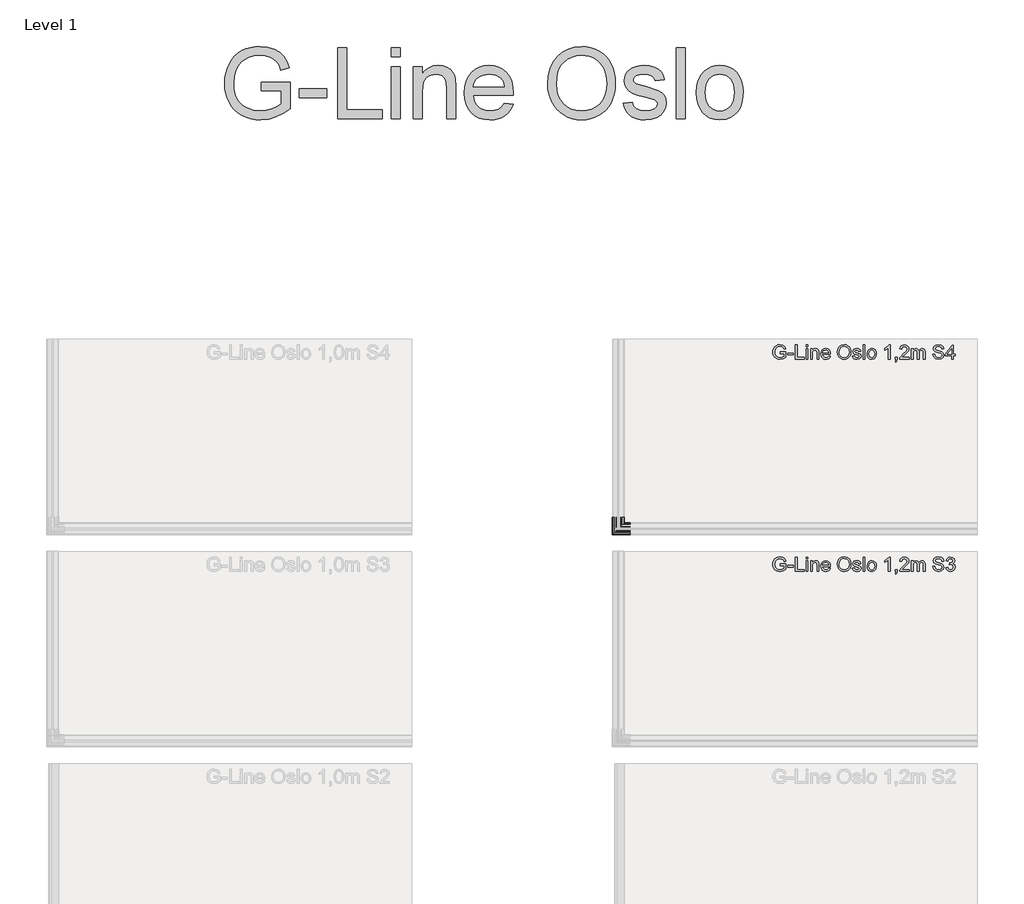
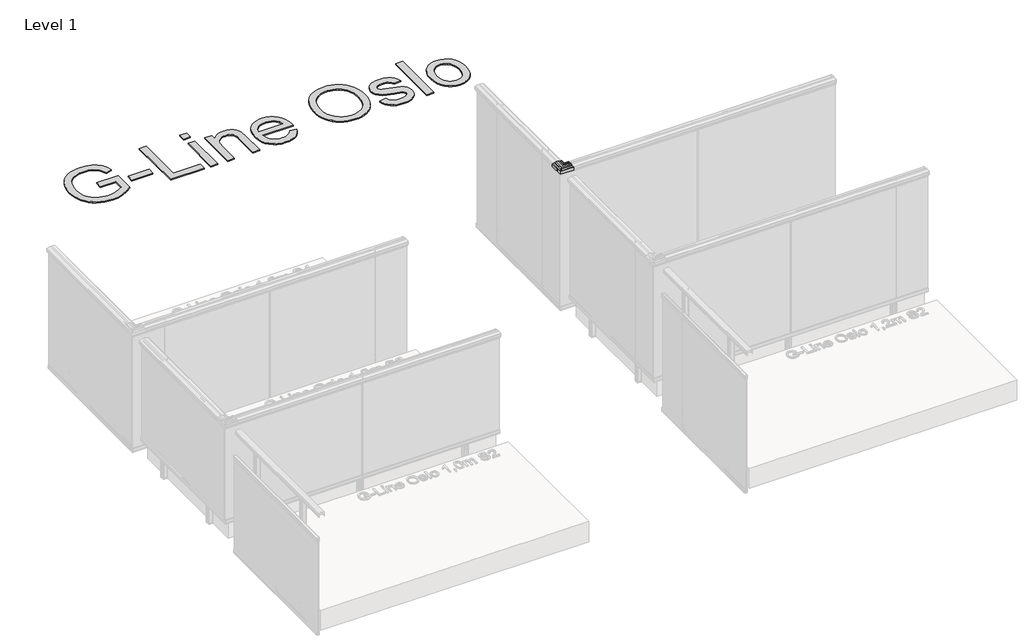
# One storey, part 66 of 66: 4 proxies.
"""IFC4 building model written with IfcOpenShell, lengths in millimetres."""

from ifc_helpers import new_model, si_unit, origin, origin_with_axes, place, context, project, spatial, polyline, outline, extrude, transform, mapped, element, save
from components import generic_models_224f447f

model = new_model("IFC4")

# Units and contexts
model_context = context("Model", 3, world=origin())
ifc_project = project(units=[si_unit("LENGTHUNIT", "METRE", prefix="MILLI")], contexts=[model_context])

# Site, building, storey
site = spatial("IfcSite", under=ifc_project)
building = spatial("IfcBuilding", under=site)
storey = spatial("IfcBuildingStorey", under=building, Name="Level 1", Elevation=0.0)

# Proxies
placement = place(None, origin())
generic_models_shape = generic_models_224f447f(model_context)
element("IfcBuildingElementProxy", 1, Name="Innore top rail 81x35 corner element : Innore top rail 81x35 element", ObjectType="Innore top rail 81x35 corner element : Innore top rail 81x35 element", at=placement, inside=storey, context=model_context, shape_type="MappedRepresentation", body=[
    mapped(generic_models_shape, transform((8465.4055183, 17090.2194821, 1200.0), x_axis=(0.0, -1.0, 0.0), y_axis=(1.0, 0.0, 0.0), z_axis=(0.0, 0.0, 1.0))),
])
element("IfcBuildingElementProxy", 2, Name="100mm Arial", ObjectType="100mm Arial", at=placement, inside=storey, context=model_context, shape_type="SweptSolid", body=[
    extrude(outline(polyline([(9608.6537991, 16829.5293902), (9608.6537991, 16842.086429), (9649.4641751, 16842.086429), (9649.4641751, 16804.53794), (9629.3165045, 16792.6921398), (9608.0161369, 16788.7190142), (9593.9293222, 16790.2978411), (9581.1975395, 16795.0343218), (9570.6209321, 16802.7629094), (9562.9996435, 16813.318057), (9558.3919215, 16825.979329), (9556.8560141, 16840.0262898), (9558.3857901, 16854.1744182), (9562.975118, 16867.3353966), (9570.4339255, 16878.3749221), (9580.5721401, 16886.158692), (9592.9207124, 16890.7756111), (9607.0105928, 16892.3145841), (9626.6554914, 16888.7461287), (9640.4265407, 16878.8133149), (9648.0171726, 16862.1973114), (9636.4411524, 16858.9354244), (9630.714456, 16870.5482327), (9620.928795, 16877.243685), (9606.8143891, 16879.7575453), (9590.7379459, 16877.0474813), (9579.7995879, 16869.935096), (9573.3371275, 16860.2597996), (9569.4130529, 16840.5413246), (9574.1342052, 16818.6523459), (9587.8684663, 16805.5557469), (9607.0105928, 16801.276053), (9624.190682, 16804.5011518), (9636.9071363, 16811.3805451), (9636.9071363, 16829.5293902), (9608.6537991, 16829.5293902)])), origin_with_axes(), (0.0, 0.0, 1.0), 10.0),
    extrude(outline(polyline([(9662.0212138, 16820.1116112), (9662.0212138, 16832.6686499), (9701.26196, 16832.6686499), (9701.26196, 16820.1116112), (9662.0212138, 16820.1116112)])), origin_with_axes(), (0.0, 0.0, 1.0), 10.0),
    extrude(outline(polyline([(9716.9582584, 16790.2886441), (9716.9582584, 16890.7449542), (9729.5152972, 16890.7449542), (9729.5152972, 16802.8456829), (9779.7434523, 16802.8456829), (9779.7434523, 16790.2886441), (9716.9582584, 16790.2886441)])), origin_with_axes(), (0.0, 0.0, 1.0), 10.0),
    extrude(outline(polyline([(9792.3004911, 16878.1879155), (9792.3004911, 16890.7449542), (9804.8575298, 16890.7449542), (9804.8575298, 16878.1879155), (9792.3004911, 16878.1879155)])), origin_with_axes(), (0.0, 0.0, 1.0), 10.0),
    extrude(outline(polyline([(9792.3004911, 16790.2886441), (9792.3004911, 16864.0612468), (9804.8575298, 16864.0612468), (9804.8575298, 16790.2886441), (9792.3004911, 16790.2886441)])), origin_with_axes(), (0.0, 0.0, 1.0), 10.0),
    extrude(outline(polyline([(9823.693088, 16790.2886441), (9823.693088, 16864.0612468), (9836.2501268, 16864.0612468), (9836.2501268, 16853.760551), (9845.8518468, 16862.6632953), (9858.9607086, 16865.6308767), (9870.8187716, 16863.2396437), (9878.9121755, 16856.9611243), (9882.6768345, 16847.7272863), (9883.3390221, 16835.5871804), (9883.3390221, 16790.2886441), (9870.7819834, 16790.2886441), (9870.7819834, 16833.8949232), (9869.3349809, 16845.0049595), (9864.2214211, 16850.8788087), (9855.6007197, 16853.0738379), (9841.9768231, 16848.1442192), (9837.6818009, 16841.0011771), (9836.2501268, 16829.4312884), (9836.2501268, 16790.2886441), (9823.693088, 16790.2886441)])), origin_with_axes(), (0.0, 0.0, 1.0), 10.0),
    extrude(outline(polyline([(9952.2555826, 16812.2634619), (9964.5673667, 16810.6938321), (9960.1313229, 16801.4170744), (9953.0526602, 16794.4824988), (9943.490794, 16790.1598854), (9931.6051399, 16788.7190142), (9916.871466, 16791.2052834), (9905.5345692, 16798.6640908), (9898.305688, 16810.6110586), (9895.8960609, 16826.5618088), (9898.3302134, 16843.0490536), (9905.632671, 16855.3792318), (9916.8162837, 16863.0679655), (9930.8939014, 16865.6308767), (9944.5331263, 16863.0740968), (9955.4316305, 16855.4037572), (9962.5777382, 16843.0981045), (9964.9597741, 16826.6353852), (9964.8861977, 16823.2508709), (9908.4530997, 16823.2508709), (9910.6266691, 16813.8514859), (9915.6758495, 16806.9414357), (9922.9629787, 16802.6923987), (9931.8503946, 16801.276053), (9944.1621787, 16803.9002779), (9952.2555826, 16812.2634619)]), holes=[polyline([(9908.4530997, 16835.8079096), (9952.4027354, 16835.8079096), (9947.3750148, 16847.187726), (9940.0541631, 16851.6023099), (9930.8448504, 16853.0738379), (9915.3815439, 16848.3772111), (9910.5163045, 16842.8865723), (9908.4530997, 16835.8079096)])]), origin_with_axes(), (0.0, 0.0, 1.0), 10.0),
    extrude(outline(polyline([(10013.6182994, 16839.192424), (10016.9660255, 16861.4063651), (10027.009204, 16878.2124409), (10042.3437518, 16888.7890483), (10061.5655861, 16892.3145841), (10074.7418929, 16890.6591151), (10086.5570363, 16885.6927082), (10096.3672228, 16877.7648512), (10103.528659, 16867.225032), (10107.9064547, 16854.5821541), (10109.36572, 16840.3451209), (10107.8298126, 16825.9180153), (10103.2220907, 16813.0973278), (10095.7970057, 16802.5391145), (10085.8090095, 16794.8994318), (10074.0950337, 16790.2641186), (10061.4920097, 16788.7190142), (10048.1133678, 16790.4265998), (10036.2307793, 16795.5493566), (10026.4451183, 16803.6243664), (10019.3572585, 16814.188711), (10013.6182994, 16839.192424)]), holes=[polyline([(10026.1753381, 16839.0697966), (10028.6861327, 16823.3551041), (10036.2185166, 16811.3805451), (10047.540085, 16803.802176), (10061.4184333, 16801.276053), (10075.4991166, 16803.8267015), (10086.8390791, 16811.478647), (10094.3162807, 16823.8210879), (10096.8086812, 16840.4432228), (10092.5412501, 16861.1672418), (10080.0700504, 16874.8892402), (10061.6391625, 16879.7575453), (10048.1317619, 16877.4122976), (10036.6477123, 16870.3765544), (10028.7934317, 16857.8593695), (10026.1753381, 16839.0697966)])]), origin_with_axes(), (0.0, 0.0, 1.0), 10.0),
    extrude(outline(polyline([(10120.3531289, 16812.2634619), (10132.9101677, 16813.8330918), (10138.7227032, 16804.5134146), (10152.0400314, 16801.276053), (10164.8423248, 16804.2436344), (10169.0116541, 16811.2088669), (10164.8177994, 16816.8497241), (10151.8928786, 16820.4304422), (10132.9837441, 16826.5740715), (10124.7309246, 16833.7477704), (10121.9227587, 16843.876788), (10124.1791016, 16853.2332535), (10130.3349937, 16860.3824269), (10138.318033, 16864.098035), (10149.1215009, 16865.6308767), (10164.4008665, 16863.1660673), (10174.1129511, 16856.4951405), (10178.4294332, 16845.2256887), (10165.8723944, 16843.6560589), (10161.1512422, 16850.5845031), (10150.1025196, 16853.0738379), (10138.0850411, 16850.6948677), (10134.4797975, 16845.1521123), (10135.975851, 16841.4978178), (10140.660215, 16838.7264401), (10151.4759457, 16836.0531643), (10169.9068336, 16830.1425269), (10178.4662214, 16823.4470746), (10181.5686929, 16812.5332421), (10177.9266611, 16800.5157635), (10167.4174988, 16791.7969603), (10151.8683531, 16788.7190142), (10139.2070811, 16790.202805), (10129.9671117, 16794.6541771), (10123.7989569, 16802.0240797), (10120.3531289, 16812.2634619)])), origin_with_axes(), (0.0, 0.0, 1.0), 10.0),
    extrude(outline(polyline([(10195.6953615, 16790.2886441), (10195.6953615, 16890.7449542), (10208.2524003, 16890.7449542), (10208.2524003, 16790.2886441), (10195.6953615, 16790.2886441)])), origin_with_axes(), (0.0, 0.0, 1.0), 10.0),
    extrude(outline(polyline([(10223.9486987, 16827.1749455), (10226.6648941, 16844.9620399), (10234.8134803, 16857.4638964), (10244.8811843, 16863.5891316), (10256.935451, 16865.6308767), (10270.1270862, 16863.1446075), (10280.6638397, 16855.6858001), (10287.5708241, 16843.8430655), (10289.8731523, 16828.2050151), (10285.8019249, 16805.8623152), (10273.9438619, 16793.2194373), (10256.935451, 16788.7190142), (10243.5844002, 16791.1960863), (10233.0599095, 16798.6273026), (10226.2265014, 16810.7183575), (10223.9486987, 16827.1749455)]), holes=[polyline([(10236.5057375, 16827.1994709), (10237.9588714, 16815.834983), (10242.318273, 16807.7385134), (10248.8788353, 16802.8916681), (10256.935451, 16801.276053), (10264.9552785, 16802.9008652), (10271.503578, 16807.7753016), (10275.8629796, 16815.9790701), (10277.3161135, 16827.5918784), (10275.8537826, 16838.6252726), (10271.4667898, 16846.6113775), (10264.9092932, 16851.4582228), (10256.935451, 16853.0738379), (10248.8788353, 16851.4643542), (10242.318273, 16846.635903), (10237.9588714, 16838.5578275), (10236.5057375, 16827.1994709)])]), origin_with_axes(), (0.0, 0.0, 1.0), 10.0),
    extrude(outline(polyline([(10387.1902027, 16790.2886441), (10374.633164, 16790.2886441), (10374.633164, 16868.5739327), (10362.7383128, 16860.100384), (10349.5190864, 16853.760551), (10349.5190864, 16865.6308767), (10367.9254489, 16877.3785751), (10379.0967988, 16890.7449542), (10387.1902027, 16890.7449542), (10387.1902027, 16790.2886441)])), origin_with_axes(), (0.0, 0.0, 1.0), 10.0),
    extrude(outline(polyline([(10423.2916892, 16790.2886441), (10423.2916892, 16802.8456829), (10435.848728, 16802.8456829), (10435.848728, 16790.2886441), (10433.5923851, 16777.4495625), (10426.4309489, 16769.8834561), (10423.2916892, 16774.5923456), (10427.9024769, 16780.0124737), (10429.5456831, 16790.2886441), (10423.2916892, 16790.2886441)])), origin_with_axes(), (0.0, 0.0, 1.0), 10.0),
    extrude(outline(polyline([(10520.6087396, 16802.8456829), (10520.6087396, 16790.2886441), (10454.6842861, 16790.2886441), (10456.0331868, 16798.9461337), (10463.6606068, 16812.2757247), (10479.3814307, 16826.8315889), (10501.061943, 16847.7518117), (10506.482071, 16861.9765822), (10501.3685113, 16873.4912887), (10488.0143949, 16878.1879155), (10474.0961927, 16873.6016533), (10468.8109547, 16860.9219872), (10456.253916, 16862.491617), (10459.2981395, 16874.6378542), (10465.8801615, 16883.5099417), (10475.6566255, 16888.9362011), (10488.284175, 16890.7449542), (10501.003695, 16888.733866), (10510.7617649, 16882.7006013), (10516.9697736, 16873.6874924), (10519.0391098, 16862.7368717), (10516.8072924, 16850.8297578), (10509.3883388, 16838.5179737), (10491.3989092, 16821.313359), (10476.9534096, 16809.2345668), (10471.2880268, 16802.8456829), (10520.6087396, 16802.8456829)])), origin_with_axes(), (0.0, 0.0, 1.0), 10.0),
    extrude(outline(polyline([(10536.3050381, 16790.2886441), (10536.3050381, 16864.0612468), (10548.8620769, 16864.0612468), (10548.8620769, 16851.921141), (10557.495041, 16861.8662176), (10569.7822997, 16865.6308767), (10582.3638639, 16861.7926412), (10589.2800454, 16851.0382242), (10599.0779692, 16861.9827136), (10611.451067, 16865.6308767), (10620.8903058, 16864.1133635), (10627.8708667, 16859.5608238), (10632.1842831, 16851.8506303), (10633.6220886, 16840.8601557), (10633.6220886, 16790.2886441), (10621.0650498, 16790.2886441), (10621.0650498, 16835.4645531), (10619.9000901, 16845.94919), (10615.6817099, 16851.1118006), (10608.508011, 16853.0738379), (10596.1594387, 16848.0461173), (10592.4714217, 16841.5039492), (10591.2420827, 16831.9328859), (10591.2420827, 16790.2886441), (10578.685044, 16790.2886441), (10578.685044, 16836.8625047), (10575.7787762, 16849.027136), (10566.2506325, 16853.0738379), (10556.9554808, 16850.3760366), (10550.7750633, 16842.4788365), (10548.8620769, 16827.4937765), (10548.8620769, 16790.2886441), (10536.3050381, 16790.2886441)])), origin_with_axes(), (0.0, 0.0, 1.0), 10.0),
    extrude(outline(polyline([(10688.5591332, 16824.8205007), (10701.1161719, 16824.8205007), (10705.1628739, 16812.2511992), (10715.0466368, 16804.3049481), (10730.1052732, 16801.276053), (10743.2263977, 16803.5691841), (10751.6999463, 16809.872229), (10754.4835867, 16818.2967266), (10752.3989221, 16826.1326131), (10743.8640598, 16831.8347841), (10725.5803246, 16836.6295127), (10705.8986379, 16842.822193), (10695.2177973, 16852.1663957), (10691.6983929, 16864.649858), (10696.0516631, 16878.8623658), (10708.7681174, 16888.8932815), (10727.3829464, 16892.3145841), (10747.2485741, 16888.733866), (10760.492326, 16878.2124409), (10765.4709956, 16862.491617), (10752.9139569, 16862.491617), (10750.608563, 16869.984147), (10745.8015716, 16875.3920123), (10727.8734557, 16879.7575453), (10709.8962889, 16875.4410632), (10704.2554316, 16865.01774), (10708.2530827, 16856.3111995), (10728.7563725, 16849.2969161), (10750.976445, 16842.9938713), (10763.1288136, 16832.8158027), (10767.0406255, 16818.6155577), (10762.5402024, 16803.5937096), (10749.5907562, 16792.6308261), (10730.5957825, 16788.7190142), (10708.1672435, 16792.9373944), (10693.9792612, 16805.641586), (10688.5591332, 16824.8205007)])), origin_with_axes(), (0.0, 0.0, 1.0), 10.0),
    extrude(outline(polyline([(10781.1672941, 16816.9723515), (10793.7243329, 16818.5419813), (10800.6527771, 16805.322755), (10813.6144861, 16801.276053), (10822.2229248, 16802.6678732), (10828.8693261, 16806.8433339), (10834.5347089, 16820.626646), (10828.9183771, 16833.6128804), (10814.6445557, 16838.7509656), (10805.8399132, 16837.3775395), (10807.2378648, 16849.9345782), (10809.2489531, 16849.7874254), (10823.498249, 16853.392669), (10828.2439267, 16857.9666685), (10829.8258193, 16864.4781798), (10825.2395571, 16874.300629), (10813.4182823, 16878.1879155), (10801.4498548, 16874.2638408), (10795.2939627, 16862.491617), (10782.7369239, 16864.0612468), (10786.434138, 16875.33683), (10793.0130943, 16883.7551963), (10802.0139405, 16888.9975148), (10812.9768239, 16890.7449542), (10828.1212994, 16887.2991262), (10838.7163009, 16877.8813471), (10842.3828581, 16865.2139438), (10838.9002419, 16853.6379237), (10828.599546, 16845.3237906), (10842.2847562, 16836.7398773), (10847.0917476, 16820.4059168), (10844.6882519, 16808.167709), (10837.4777648, 16797.9405896), (10826.5945891, 16791.0244081), (10813.1730277, 16788.7190142), (10801.0329218, 16790.6871829), (10791.1491589, 16796.5916889), (10784.275897, 16805.6231919), (10781.1672941, 16816.9723515)])), origin_with_axes(), (0.0, 0.0, 1.0), 10.0),
])
element("IfcBuildingElementProxy", 3, Name="100mm Arial", ObjectType="100mm Arial", at=placement, inside=storey, context=model_context, shape_type="SweptSolid", body=[
    extrude(outline(polyline([(9608.6537991, 18329.5293902), (9608.6537991, 18342.086429), (9649.4641751, 18342.086429), (9649.4641751, 18304.53794), (9629.3165045, 18292.6921398), (9608.0161369, 18288.7190142), (9593.9293222, 18290.2978411), (9581.1975395, 18295.0343218), (9570.6209321, 18302.7629094), (9562.9996435, 18313.318057), (9558.3919215, 18325.979329), (9556.8560141, 18340.0262898), (9558.3857901, 18354.1744182), (9562.975118, 18367.3353966), (9570.4339255, 18378.3749221), (9580.5721401, 18386.158692), (9592.9207124, 18390.7756111), (9607.0105928, 18392.3145841), (9626.6554914, 18388.7461287), (9640.4265407, 18378.8133149), (9648.0171726, 18362.1973114), (9636.4411524, 18358.9354244), (9630.714456, 18370.5482327), (9620.928795, 18377.243685), (9606.8143891, 18379.7575453), (9590.7379459, 18377.0474813), (9579.7995879, 18369.935096), (9573.3371275, 18360.2597996), (9569.4130529, 18340.5413246), (9574.1342052, 18318.6523459), (9587.8684663, 18305.5557469), (9607.0105928, 18301.276053), (9624.190682, 18304.5011518), (9636.9071363, 18311.3805451), (9636.9071363, 18329.5293902), (9608.6537991, 18329.5293902)])), origin_with_axes(), (0.0, 0.0, 1.0), 10.0),
    extrude(outline(polyline([(9662.0212138, 18320.1116112), (9662.0212138, 18332.6686499), (9701.26196, 18332.6686499), (9701.26196, 18320.1116112), (9662.0212138, 18320.1116112)])), origin_with_axes(), (0.0, 0.0, 1.0), 10.0),
    extrude(outline(polyline([(9716.9582584, 18290.2886441), (9716.9582584, 18390.7449542), (9729.5152972, 18390.7449542), (9729.5152972, 18302.8456829), (9779.7434523, 18302.8456829), (9779.7434523, 18290.2886441), (9716.9582584, 18290.2886441)])), origin_with_axes(), (0.0, 0.0, 1.0), 10.0),
    extrude(outline(polyline([(9792.3004911, 18378.1879155), (9792.3004911, 18390.7449542), (9804.8575298, 18390.7449542), (9804.8575298, 18378.1879155), (9792.3004911, 18378.1879155)])), origin_with_axes(), (0.0, 0.0, 1.0), 10.0),
    extrude(outline(polyline([(9792.3004911, 18290.2886441), (9792.3004911, 18364.0612468), (9804.8575298, 18364.0612468), (9804.8575298, 18290.2886441), (9792.3004911, 18290.2886441)])), origin_with_axes(), (0.0, 0.0, 1.0), 10.0),
    extrude(outline(polyline([(9823.693088, 18290.2886441), (9823.693088, 18364.0612468), (9836.2501268, 18364.0612468), (9836.2501268, 18353.760551), (9845.8518468, 18362.6632953), (9858.9607086, 18365.6308767), (9870.8187716, 18363.2396437), (9878.9121755, 18356.9611243), (9882.6768345, 18347.7272863), (9883.3390221, 18335.5871804), (9883.3390221, 18290.2886441), (9870.7819834, 18290.2886441), (9870.7819834, 18333.8949232), (9869.3349809, 18345.0049595), (9864.2214211, 18350.8788087), (9855.6007197, 18353.0738379), (9841.9768231, 18348.1442192), (9837.6818009, 18341.0011771), (9836.2501268, 18329.4312884), (9836.2501268, 18290.2886441), (9823.693088, 18290.2886441)])), origin_with_axes(), (0.0, 0.0, 1.0), 10.0),
    extrude(outline(polyline([(9952.2555826, 18312.2634619), (9964.5673667, 18310.6938321), (9960.1313229, 18301.4170744), (9953.0526602, 18294.4824988), (9943.490794, 18290.1598854), (9931.6051399, 18288.7190142), (9916.871466, 18291.2052834), (9905.5345692, 18298.6640908), (9898.305688, 18310.6110586), (9895.8960609, 18326.5618088), (9898.3302134, 18343.0490536), (9905.632671, 18355.3792318), (9916.8162837, 18363.0679655), (9930.8939014, 18365.6308767), (9944.5331263, 18363.0740968), (9955.4316305, 18355.4037572), (9962.5777382, 18343.0981045), (9964.9597741, 18326.6353852), (9964.8861977, 18323.2508709), (9908.4530997, 18323.2508709), (9910.6266691, 18313.8514859), (9915.6758495, 18306.9414357), (9922.9629787, 18302.6923987), (9931.8503946, 18301.276053), (9944.1621787, 18303.9002779), (9952.2555826, 18312.2634619)]), holes=[polyline([(9908.4530997, 18335.8079096), (9952.4027354, 18335.8079096), (9947.3750148, 18347.187726), (9940.0541631, 18351.6023099), (9930.8448504, 18353.0738379), (9915.3815439, 18348.3772111), (9910.5163045, 18342.8865723), (9908.4530997, 18335.8079096)])]), origin_with_axes(), (0.0, 0.0, 1.0), 10.0),
    extrude(outline(polyline([(10013.6182994, 18339.192424), (10016.9660255, 18361.4063651), (10027.009204, 18378.2124409), (10042.3437518, 18388.7890483), (10061.5655861, 18392.3145841), (10074.7418929, 18390.6591151), (10086.5570363, 18385.6927082), (10096.3672228, 18377.7648512), (10103.528659, 18367.225032), (10107.9064547, 18354.5821541), (10109.36572, 18340.3451209), (10107.8298126, 18325.9180153), (10103.2220907, 18313.0973278), (10095.7970057, 18302.5391145), (10085.8090095, 18294.8994318), (10074.0950337, 18290.2641186), (10061.4920097, 18288.7190142), (10048.1133678, 18290.4265998), (10036.2307793, 18295.5493566), (10026.4451183, 18303.6243664), (10019.3572585, 18314.188711), (10013.6182994, 18339.192424)]), holes=[polyline([(10026.1753381, 18339.0697966), (10028.6861327, 18323.3551041), (10036.2185166, 18311.3805451), (10047.540085, 18303.802176), (10061.4184333, 18301.276053), (10075.4991166, 18303.8267015), (10086.8390791, 18311.478647), (10094.3162807, 18323.8210879), (10096.8086812, 18340.4432228), (10092.5412501, 18361.1672418), (10080.0700504, 18374.8892402), (10061.6391625, 18379.7575453), (10048.1317619, 18377.4122976), (10036.6477123, 18370.3765544), (10028.7934317, 18357.8593695), (10026.1753381, 18339.0697966)])]), origin_with_axes(), (0.0, 0.0, 1.0), 10.0),
    extrude(outline(polyline([(10120.3531289, 18312.2634619), (10132.9101677, 18313.8330918), (10138.7227032, 18304.5134146), (10152.0400314, 18301.276053), (10164.8423248, 18304.2436344), (10169.0116541, 18311.2088669), (10164.8177994, 18316.8497241), (10151.8928786, 18320.4304422), (10132.9837441, 18326.5740715), (10124.7309246, 18333.7477704), (10121.9227587, 18343.876788), (10124.1791016, 18353.2332535), (10130.3349937, 18360.3824269), (10138.318033, 18364.098035), (10149.1215009, 18365.6308767), (10164.4008665, 18363.1660673), (10174.1129511, 18356.4951405), (10178.4294332, 18345.2256887), (10165.8723944, 18343.6560589), (10161.1512422, 18350.5845031), (10150.1025196, 18353.0738379), (10138.0850411, 18350.6948677), (10134.4797975, 18345.1521123), (10135.975851, 18341.4978178), (10140.660215, 18338.7264401), (10151.4759457, 18336.0531643), (10169.9068336, 18330.1425269), (10178.4662214, 18323.4470746), (10181.5686929, 18312.5332421), (10177.9266611, 18300.5157635), (10167.4174988, 18291.7969603), (10151.8683531, 18288.7190142), (10139.2070811, 18290.202805), (10129.9671117, 18294.6541771), (10123.7989569, 18302.0240797), (10120.3531289, 18312.2634619)])), origin_with_axes(), (0.0, 0.0, 1.0), 10.0),
    extrude(outline(polyline([(10195.6953615, 18290.2886441), (10195.6953615, 18390.7449542), (10208.2524003, 18390.7449542), (10208.2524003, 18290.2886441), (10195.6953615, 18290.2886441)])), origin_with_axes(), (0.0, 0.0, 1.0), 10.0),
    extrude(outline(polyline([(10223.9486987, 18327.1749455), (10226.6648941, 18344.9620399), (10234.8134803, 18357.4638964), (10244.8811843, 18363.5891316), (10256.935451, 18365.6308767), (10270.1270862, 18363.1446075), (10280.6638397, 18355.6858001), (10287.5708241, 18343.8430655), (10289.8731523, 18328.2050151), (10285.8019249, 18305.8623152), (10273.9438619, 18293.2194373), (10256.935451, 18288.7190142), (10243.5844002, 18291.1960863), (10233.0599095, 18298.6273026), (10226.2265014, 18310.7183575), (10223.9486987, 18327.1749455)]), holes=[polyline([(10236.5057375, 18327.1994709), (10237.9588714, 18315.834983), (10242.318273, 18307.7385134), (10248.8788353, 18302.8916681), (10256.935451, 18301.276053), (10264.9552785, 18302.9008652), (10271.503578, 18307.7753016), (10275.8629796, 18315.9790701), (10277.3161135, 18327.5918784), (10275.8537826, 18338.6252726), (10271.4667898, 18346.6113775), (10264.9092932, 18351.4582228), (10256.935451, 18353.0738379), (10248.8788353, 18351.4643542), (10242.318273, 18346.635903), (10237.9588714, 18338.5578275), (10236.5057375, 18327.1994709)])]), origin_with_axes(), (0.0, 0.0, 1.0), 10.0),
    extrude(outline(polyline([(10387.1902027, 18290.2886441), (10374.633164, 18290.2886441), (10374.633164, 18368.5739327), (10362.7383128, 18360.100384), (10349.5190864, 18353.760551), (10349.5190864, 18365.6308767), (10367.9254489, 18377.3785751), (10379.0967988, 18390.7449542), (10387.1902027, 18390.7449542), (10387.1902027, 18290.2886441)])), origin_with_axes(), (0.0, 0.0, 1.0), 10.0),
    extrude(outline(polyline([(10423.2916892, 18290.2886441), (10423.2916892, 18302.8456829), (10435.848728, 18302.8456829), (10435.848728, 18290.2886441), (10433.5923851, 18277.4495625), (10426.4309489, 18269.8834561), (10423.2916892, 18274.5923456), (10427.9024769, 18280.0124737), (10429.5456831, 18290.2886441), (10423.2916892, 18290.2886441)])), origin_with_axes(), (0.0, 0.0, 1.0), 10.0),
    extrude(outline(polyline([(10520.6087396, 18302.8456829), (10520.6087396, 18290.2886441), (10454.6842861, 18290.2886441), (10456.0331868, 18298.9461337), (10463.6606068, 18312.2757247), (10479.3814307, 18326.8315889), (10501.061943, 18347.7518117), (10506.482071, 18361.9765822), (10501.3685113, 18373.4912887), (10488.0143949, 18378.1879155), (10474.0961927, 18373.6016533), (10468.8109547, 18360.9219872), (10456.253916, 18362.491617), (10459.2981395, 18374.6378542), (10465.8801615, 18383.5099417), (10475.6566255, 18388.9362011), (10488.284175, 18390.7449542), (10501.003695, 18388.733866), (10510.7617649, 18382.7006013), (10516.9697736, 18373.6874924), (10519.0391098, 18362.7368717), (10516.8072924, 18350.8297578), (10509.3883388, 18338.5179737), (10491.3989092, 18321.313359), (10476.9534096, 18309.2345668), (10471.2880268, 18302.8456829), (10520.6087396, 18302.8456829)])), origin_with_axes(), (0.0, 0.0, 1.0), 10.0),
    extrude(outline(polyline([(10536.3050381, 18290.2886441), (10536.3050381, 18364.0612468), (10548.8620769, 18364.0612468), (10548.8620769, 18351.921141), (10557.495041, 18361.8662176), (10569.7822997, 18365.6308767), (10582.3638639, 18361.7926412), (10589.2800454, 18351.0382242), (10599.0779692, 18361.9827136), (10611.451067, 18365.6308767), (10620.8903058, 18364.1133635), (10627.8708667, 18359.5608238), (10632.1842831, 18351.8506303), (10633.6220886, 18340.8601557), (10633.6220886, 18290.2886441), (10621.0650498, 18290.2886441), (10621.0650498, 18335.4645531), (10619.9000901, 18345.94919), (10615.6817099, 18351.1118006), (10608.508011, 18353.0738379), (10596.1594387, 18348.0461173), (10592.4714217, 18341.5039492), (10591.2420827, 18331.9328859), (10591.2420827, 18290.2886441), (10578.685044, 18290.2886441), (10578.685044, 18336.8625047), (10575.7787762, 18349.027136), (10566.2506325, 18353.0738379), (10556.9554808, 18350.3760366), (10550.7750633, 18342.4788365), (10548.8620769, 18327.4937765), (10548.8620769, 18290.2886441), (10536.3050381, 18290.2886441)])), origin_with_axes(), (0.0, 0.0, 1.0), 10.0),
    extrude(outline(polyline([(10688.5591332, 18324.8205007), (10701.1161719, 18324.8205007), (10705.1628739, 18312.2511992), (10715.0466368, 18304.3049481), (10730.1052732, 18301.276053), (10743.2263977, 18303.5691841), (10751.6999463, 18309.872229), (10754.4835867, 18318.2967266), (10752.3989221, 18326.1326131), (10743.8640598, 18331.8347841), (10725.5803246, 18336.6295127), (10705.8986379, 18342.822193), (10695.2177973, 18352.1663957), (10691.6983929, 18364.649858), (10696.0516631, 18378.8623658), (10708.7681174, 18388.8932815), (10727.3829464, 18392.3145841), (10747.2485741, 18388.733866), (10760.492326, 18378.2124409), (10765.4709956, 18362.491617), (10752.9139569, 18362.491617), (10750.608563, 18369.984147), (10745.8015716, 18375.3920123), (10727.8734557, 18379.7575453), (10709.8962889, 18375.4410632), (10704.2554316, 18365.01774), (10708.2530827, 18356.3111995), (10728.7563725, 18349.2969161), (10750.976445, 18342.9938713), (10763.1288136, 18332.8158027), (10767.0406255, 18318.6155577), (10762.5402024, 18303.5937096), (10749.5907562, 18292.6308261), (10730.5957825, 18288.7190142), (10708.1672435, 18292.9373944), (10693.9792612, 18305.641586), (10688.5591332, 18324.8205007)])), origin_with_axes(), (0.0, 0.0, 1.0), 10.0),
    extrude(outline(polyline([(10821.9776701, 18290.2886441), (10821.9776701, 18313.8330918), (10776.4584046, 18313.8330918), (10776.4584046, 18326.3901305), (10825.1169298, 18389.1753244), (10834.5347089, 18389.1753244), (10834.5347089, 18326.3901305), (10847.0917476, 18326.3901305), (10847.0917476, 18313.8330918), (10834.5347089, 18313.8330918), (10834.5347089, 18290.2886441), (10821.9776701, 18290.2886441)]), holes=[polyline([(10821.9776701, 18326.3901305), (10821.9776701, 18365.1894183), (10791.9094484, 18326.3901305), (10821.9776701, 18326.3901305)])]), origin_with_axes(), (0.0, 0.0, 1.0), 10.0),
])
element("IfcBuildingElementProxy", 4, Name="500mm Arial 2", ObjectType="500mm Arial 2", at=placement, inside=storey, context=model_context, shape_type="SweptSolid", body=[
    extrude(outline(polyline([(5940.9590163, 20186.4923748), (5940.9590163, 20249.2775687), (6145.0108963, 20249.2775687), (6145.0108963, 20061.5351238), (6095.423469, 20027.0461868), (6044.2725433, 20002.3061226), (5991.6807464, 19987.4069018), (5937.7707057, 19982.4404949), (5901.7067738, 19984.4140285), (5867.336632, 19990.3346293), (5834.6602802, 20000.2022974), (5803.6777184, 20014.0170328), (5775.3891258, 20031.5719017), (5750.7946816, 20052.6599707), (5729.8943858, 20077.2812396), (5712.6882383, 20105.4357086), (5699.2490491, 20136.222833), (5689.6496283, 20168.7420686), (5683.8899758, 20202.9934152), (5681.9700917, 20238.9768728), (5683.8823116, 20274.9641626), (5689.6189715, 20309.7175148), (5699.1800713, 20343.2369295), (5712.565611, 20375.5224067), (5729.5380001, 20405.1560678), (5749.8596482, 20430.7200344), (5773.5305553, 20452.2143064), (5800.5507215, 20469.6388838), (5830.3338347, 20483.1048977), (5862.293583, 20492.723479), (5896.4299665, 20498.4946278), (5932.7429851, 20500.4183441), (5984.4610622, 20495.9577749), (6030.9674778, 20482.5760673), (6070.1315818, 20461.2389116), (6099.8227245, 20432.9119979), (6121.7883453, 20396.2310973), (6137.7758837, 20349.8319807), (6079.8957831, 20333.5225456), (6066.9739281, 20366.6165967), (6051.2623012, 20391.5865872), (6030.4769685, 20410.4098826), (6002.3339958, 20425.0638487), (5968.7800922, 20434.4908248), (5931.7619664, 20437.6331502), (5888.4285331, 20434.2455702), (5851.3797505, 20424.0828301), (5820.7535744, 20408.4171884), (5796.6879605, 20388.5209039), (5778.2172187, 20365.4209802), (5764.3756586, 20340.1444215), (5749.6603788, 20292.7489578), (5744.7552855, 20241.5520468), (5746.2306456, 20210.201603), (5750.6567259, 20181.5106395), (5758.0335263, 20155.4791562), (5768.3610469, 20132.1071532), (5781.505164, 20111.4827689), (5797.331754, 20093.6941416), (5815.8408169, 20078.7412713), (5837.0323527, 20066.6241581), (5883.492783, 20050.575306), (5932.7429851, 20045.2256887), (5976.2297026, 20049.2570622), (6018.6434309, 20061.3511828), (6055.4776157, 20078.0131715), (6082.2257024, 20095.7481494), (6082.2257024, 20186.4923748), (5940.9590163, 20186.4923748)])), origin_with_axes(), (0.0, 0.0, 1.0), 10.0),
    extrude(outline(polyline([(6207.7960901, 20139.4034795), (6207.7960901, 20202.1886733), (6403.9998209, 20202.1886733), (6403.9998209, 20139.4034795), (6207.7960901, 20139.4034795)])), origin_with_axes(), (0.0, 0.0, 1.0), 10.0),
    extrude(outline(polyline([(6482.4813132, 19990.2886441), (6482.4813132, 20492.5701948), (6545.266507, 20492.5701948), (6545.266507, 20053.0738379), (6796.4072824, 20053.0738379), (6796.4072824, 19990.2886441), (6482.4813132, 19990.2886441)])), origin_with_axes(), (0.0, 0.0, 1.0), 10.0),
    extrude(outline(polyline([(6859.1924763, 19990.2886441), (6859.1924763, 20359.1516579), (6921.9776701, 20359.1516579), (6921.9776701, 19990.2886441), (6859.1924763, 19990.2886441)])), origin_with_axes(), (0.0, 0.0, 1.0), 10.0),
    extrude(outline(polyline([(6859.1924763, 20429.785001), (6859.1924763, 20492.5701948), (6921.9776701, 20492.5701948), (6921.9776701, 20429.785001), (6859.1924763, 20429.785001)])), origin_with_axes(), (0.0, 0.0, 1.0), 10.0),
    extrude(outline(polyline([(7016.1554609, 19990.2886441), (7016.1554609, 20359.1516579), (7078.9406547, 20359.1516579), (7078.9406547, 20307.6481786), (7100.7529913, 20333.6145161), (7126.9492551, 20352.1619), (7157.5294459, 20363.2903304), (7192.4935639, 20366.9998071), (7223.4416367, 20364.0107659), (7251.7838788, 20355.0436423), (7275.420297, 20341.2174106), (7292.2508982, 20323.6510454), (7303.6705685, 20302.3905317), (7311.0741937, 20277.481855), (7314.3851316, 20216.7813258), (7314.3851316, 19990.2886441), (7251.5999378, 19990.2886441), (7251.5999378, 20208.3200399), (7249.7911846, 20240.785626), (7244.3649252, 20263.8702212), (7234.3554693, 20280.4095825), (7218.7971265, 20293.2394671), (7198.8548567, 20301.4708268), (7175.6936194, 20304.2146133), (7156.6289015, 20302.6741074), (7138.9207483, 20298.0525899), (7122.5691601, 20290.3500606), (7107.5741367, 20279.5665196), (7095.0469883, 20264.4756936), (7086.0990252, 20243.8513093), (7080.7302473, 20217.6933666), (7078.9406547, 20186.0018655), (7078.9406547, 19990.2886441), (7016.1554609, 19990.2886441)])), origin_with_axes(), (0.0, 0.0, 1.0), 10.0),
    extrude(outline(polyline([(7658.9679338, 20100.1627333), (7720.5268543, 20092.3145841), (7711.0883819, 20067.6588262), (7698.3466357, 20045.9307959), (7682.3016157, 20027.1304931), (7662.953322, 20011.2579178), (7640.501024, 19998.6502953), (7615.1439911, 19989.6448506), (7586.8822232, 19984.2415838), (7555.7157205, 19982.4404949), (7516.75855, 19985.5483313), (7482.0473509, 19994.8718406), (7451.5821232, 20010.4110228), (7425.3628668, 20032.1658779), (7404.27863, 20059.5309334), (7389.2184608, 20091.9007168), (7380.1823593, 20129.2752283), (7377.1703255, 20171.6544677), (7380.2130161, 20215.4707462), (7389.3410881, 20254.0906915), (7404.5545415, 20287.5143036), (7425.8533762, 20315.7415825), (7452.0036546, 20338.1670558), (7481.7714394, 20354.185251), (7515.1567305, 20363.7961681), (7552.1595278, 20366.9998071), (7587.9705408, 20363.8038323), (7620.3556527, 20354.2159078), (7649.3148635, 20338.2360336), (7674.8481732, 20315.8642098), (7695.6909875, 20287.6982446), (7710.578712, 20254.3359461), (7719.5113467, 20215.7773145), (7722.4888916, 20172.0223497), (7722.1210096, 20155.0997779), (7439.9555193, 20155.0997779), (7443.5921861, 20130.0454812), (7450.8233666, 20108.102853), (7461.6490607, 20089.2718934), (7476.0692685, 20073.5526023), (7493.2869123, 20061.1595776), (7512.5049144, 20052.3074171), (7533.7232749, 20046.9961208), (7556.9419938, 20045.2256887), (7590.3579417, 20048.5059698), (7618.5009143, 20058.3468132), (7641.3709117, 20075.3613555), (7658.9679338, 20100.1627333)]), holes=[polyline([(7439.9555193, 20217.8849718), (7659.7036978, 20217.8849718), (7651.211755, 20251.055665), (7634.5650948, 20274.7840537), (7617.4432536, 20287.6599235), (7597.9608362, 20296.8569734), (7576.1178428, 20302.3752033), (7551.9142732, 20304.2146133), (7509.5925153, 20298.3438298), (7491.179255, 20291.0053504), (7474.5977405, 20280.7314793), (7460.6833705, 20267.9973973), (7450.2715436, 20253.2782854), (7443.3622599, 20236.5741435), (7439.9555193, 20217.8849718)])]), origin_with_axes(), (0.0, 0.0, 1.0), 10.0),
    extrude(outline(polyline([(7965.7815177, 20234.8075435), (7969.9661754, 20293.7223122), (7982.5201485, 20345.8772493), (8003.443437, 20391.2723546), (8032.7360409, 20429.9076283), (8068.6428564, 20460.7560665), (8109.40878, 20482.7906651), (8155.0338116, 20496.0114243), (8205.5179513, 20500.4183441), (8239.3094454, 20498.3490078), (8271.3994852, 20492.1409992), (8301.7880709, 20481.7943181), (8330.4752023, 20467.3089645), (8356.6561376, 20449.1217984), (8379.526135, 20427.6696795), (8399.0851944, 20402.952608), (8415.3333159, 20374.9705837), (8428.1018868, 20344.359736), (8437.2222946, 20311.7561942), (8442.6945392, 20277.1599582), (8444.5186208, 20240.5710281), (8442.5987366, 20203.4992529), (8436.8390842, 20168.4355002), (8427.2396633, 20135.3797701), (8413.8004742, 20104.3320626), (8396.8395814, 20076.1124479), (8376.6750495, 20051.5409963), (8353.3068786, 20030.6177078), (8326.7350687, 20013.3425824), (8298.0057841, 19999.8229191), (8268.1651894, 19990.1660168), (8237.2132844, 19984.3718753), (8205.1500693, 19982.4404949), (8170.7684311, 19984.5749768), (8138.2568598, 19990.9784228), (8107.6153553, 20001.6508328), (8078.8439176, 20016.5922067), (8052.6936391, 20035.223897), (8029.9156122, 20056.9672557), (8010.509837, 20081.822283), (7994.4763134, 20109.7889789), (7981.9223403, 20139.7445367), (7972.9552166, 20170.5661501), (7967.5749425, 20202.2538191), (7965.7815177, 20234.8075435)]), holes=[polyline([(8028.5667116, 20234.1944069), (8031.7052049, 20192.570092), (8041.1206847, 20155.6209441), (8056.813151, 20123.3469632), (8078.7826039, 20095.7481494), (8105.4885375, 20073.6445728), (8135.3904459, 20057.8563039), (8168.4883292, 20048.3833425), (8204.7821873, 20045.2256887), (8241.6968462, 20048.4139993), (8275.1856041, 20057.9789312), (8305.2484609, 20073.9204843), (8331.8854166, 20096.2386587), (8353.6939211, 20124.4199524), (8369.2714244, 20157.9508634), (8378.6179263, 20196.8313918), (8381.733427, 20241.0615375), (8376.399138, 20296.6423756), (8360.3962712, 20344.6816328), (8348.497588, 20365.5704323), (8334.1386938, 20383.9683642), (8317.3195889, 20399.8754284), (8298.0402731, 20413.2916249), (8276.8985546, 20423.9410422), (8254.4922419, 20431.5477689), (8230.8213347, 20436.1118049), (8205.8858333, 20437.6331502), (8170.8527374, 20434.7015906), (8138.3488303, 20425.9069116), (8108.3741119, 20411.2491134), (8080.9285822, 20390.7281958), (8058.0202638, 20363.3554761), (8041.6571792, 20328.1422714), (8031.8393285, 20285.0885817), (8028.5667116, 20234.1944069)])]), origin_with_axes(), (0.0, 0.0, 1.0), 10.0),
    extrude(outline(polyline([(8499.4556654, 20100.1627333), (8562.2408593, 20108.0108825), (8572.1430163, 20081.1554969), (8591.3035369, 20061.4124965), (8619.8450483, 20049.2723906), (8657.890178, 20045.2256887), (8695.4754552, 20048.9351655), (8721.9016452, 20060.0635958), (8737.53663, 20076.18909), (8742.7482916, 20094.889758), (8737.5059731, 20110.8926248), (8721.7790178, 20123.0940443), (8657.154414, 20140.9976348), (8599.8567933, 20157.567653), (8562.6087413, 20171.7157814), (8538.6810831, 20187.1514968), (8521.3446441, 20207.5842759), (8510.814022, 20231.7112034), (8507.3038146, 20258.2293639), (8510.1242433, 20282.5555608), (8518.5855292, 20305.011691), (8531.9212515, 20324.7087061), (8549.3649894, 20340.7575582), (8566.7014284, 20350.8589846), (8589.2801859, 20359.3355989), (8615.3844791, 20365.0837551), (8643.2975255, 20366.9998071), (8684.1630838, 20363.9187954), (8719.6943532, 20354.6757603), (8748.2665215, 20340.1750783), (8768.2547766, 20321.3211261), (8781.4985284, 20296.7190176), (8789.8371869, 20264.9738671), (8727.0519931, 20257.1257179), (8719.1272018, 20276.8840467), (8703.4462317, 20291.7679391), (8679.8557988, 20301.1029448), (8648.2026188, 20304.2146133), (8612.1501833, 20301.2409005), (8588.1152263, 20292.3197621), (8574.5955629, 20279.4438923), (8570.0890085, 20264.6059852), (8571.9590753, 20254.9490828), (8577.5692757, 20246.3345127), (8587.1648644, 20238.6396477), (8600.9910961, 20232.4776242), (8655.0697494, 20219.1112451), (8747.2241892, 20189.5580581), (8771.5657145, 20175.4252582), (8790.0211279, 20156.0807966), (8801.655396, 20131.4633597), (8805.5334854, 20101.511634), (8800.9809457, 20070.5482327), (8787.3233266, 20041.4242414), (8765.0817943, 20016.4235942), (8734.777515, 19997.830225), (8698.1732565, 19986.2879274), (8657.0317867, 19982.4404949), (8623.2402926, 19984.2952332), (8593.7254267, 19989.8594484), (8568.487189, 19999.1331404), (8547.5255795, 20012.1163091), (8530.4037383, 20028.747641), (8516.6848055, 20048.9658223), (8506.3687812, 20072.7708531), (8499.4556654, 20100.1627333)])), origin_with_axes(), (0.0, 0.0, 1.0), 10.0),
    extrude(outline(polyline([(8876.1668285, 19990.2886441), (8876.1668285, 20492.5701948), (8938.9520223, 20492.5701948), (8938.9520223, 19990.2886441), (8876.1668285, 19990.2886441)])), origin_with_axes(), (0.0, 0.0, 1.0), 10.0),
    extrude(outline(polyline([(9017.4335146, 20174.720151), (9020.8287589, 20222.4911609), (9031.0144916, 20263.6556233), (9047.9907128, 20298.2135383), (9071.7574226, 20326.1649057), (9095.6850807, 20344.0301751), (9122.0959423, 20356.7910818), (9150.9900073, 20364.4476258), (9182.3672758, 20366.9998071), (9217.0056649, 20363.8919707), (9248.3254518, 20354.5684614), (9276.3266366, 20339.0292792), (9301.0092192, 20317.2744241), (9321.1545906, 20290.0396602), (9335.5441415, 20258.0607513), (9344.1778721, 20221.3376976), (9347.0557823, 20179.8704989), (9341.966748, 20116.4415116), (9335.6054552, 20090.4061962), (9326.6996452, 20068.1569997), (9315.3604492, 20048.9389976), (9301.698998, 20031.9972653), (9285.7152917, 20017.3318028), (9267.4093303, 20004.9426102), (9226.6817278, 19988.0660237), (9182.3672758, 19982.4404949), (9147.2230489, 19985.536835), (9115.6120221, 19994.8258554), (9087.5341952, 20010.307556), (9062.9895684, 20031.9819369), (9043.0587948, 20059.481116), (9028.8225281, 20092.4372114), (9020.280768, 20130.8502231), (9017.4335146, 20174.720151)]), holes=[polyline([(9080.2187085, 20174.8427783), (9082.0351258, 20144.3890469), (9087.4843779, 20118.0203385), (9096.5664646, 20095.7366531), (9109.2813861, 20077.5379906), (9124.7477583, 20063.4013585), (9142.0841973, 20053.3037642), (9161.2907032, 20047.2452076), (9182.3672758, 20045.2256887), (9203.3365495, 20047.2567039), (9222.4664133, 20053.3497494), (9239.756867, 20063.5048253), (9255.2079108, 20077.7219316), (9267.9228323, 20096.1007029), (9277.0049191, 20118.7407741), (9282.4541711, 20145.642145), (9284.2705885, 20176.8048156), (9282.4426748, 20206.2928568), (9276.9589338, 20231.9717865), (9267.8193655, 20253.8416047), (9255.0239698, 20271.9023114), (9239.5154445, 20286.0389435), (9222.236487, 20296.1365378), (9203.1870975, 20302.1950944), (9182.3672758, 20304.2146133), (9161.2907032, 20302.2027586), (9142.0841973, 20296.1671947), (9124.7477583, 20286.1079214), (9109.2813861, 20272.0249387), (9096.5664646, 20253.8799257), (9087.4843779, 20231.6345613), (9082.0351258, 20205.2888455), (9080.2187085, 20174.8427783)])]), origin_with_axes(), (0.0, 0.0, 1.0), 10.0),
])

save(model, "model.ifc")
